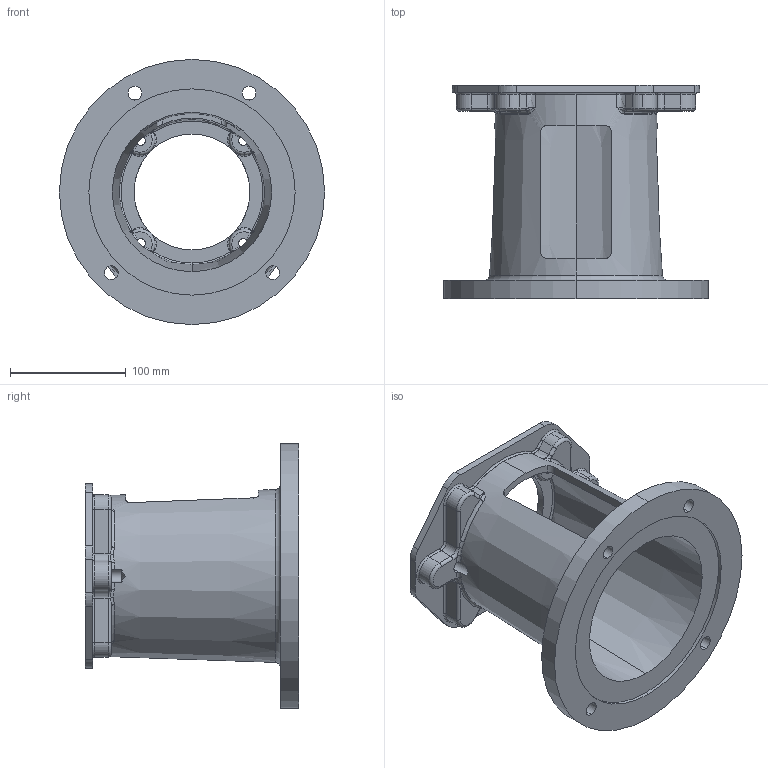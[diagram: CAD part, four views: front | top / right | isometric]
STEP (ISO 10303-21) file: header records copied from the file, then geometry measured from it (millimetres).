
FILE_DESCRIPTION (( 'STEP AP203' ), '1' );
FILE_NAME ('E70072100M.STEP', '2014-11-04T13:32:30', ( '' ), ( '' ), 'SwSTEP 2.0', 'SolidWorks 2014', '' );
FILE_SCHEMA (( 'CONFIG_CONTROL_DESIGN' ));
Length unit declared in the file: inch
Products named in the file (1): E70072100M
Bounding box: 228.6 x 184.15 x 228.6 mm (x, y, z)
Volume: 989026.7 mm3; surface area: 246781.6 mm2
Topology: 1 solids, 1 shells, 276 faces, 724 edges, 425 vertices
Faces by surface type: torus 79, cylinder 74, bspline 48, plane 43, cone 16, sphere 16
Entity records: 10761 total; most frequent: CARTESIAN_POINT 4208, ORIENTED_EDGE 1408, DIRECTION 1386, EDGE_CURVE 704, AXIS2_PLACEMENT_3D 621, VERTEX_POINT 425, CIRCLE 392, EDGE_LOOP 295
